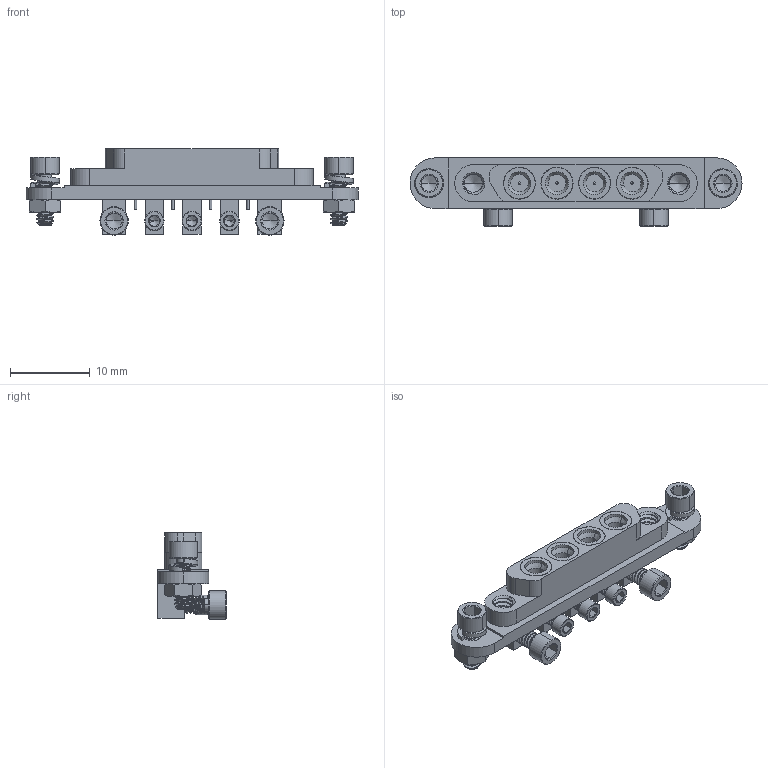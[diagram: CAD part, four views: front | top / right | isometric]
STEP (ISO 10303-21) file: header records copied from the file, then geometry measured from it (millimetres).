
FILE_DESCRIPTION (( 'STEP AP203' ), '1' );
FILE_NAME ('8869000G91P-097.STEP', '2023-11-08T18:12:51', ( '' ), ( '' ), 'SwSTEP 2.0', 'SolidWorks 2022', '' );
FILE_SCHEMA (( 'CONFIG_CONTROL_DESIGN' ));
Products named in the file (1): 8869000G91P-097
Bounding box: 41.53 x 8.53 x 10.79 mm (x, y, z)
Volume: 1233 mm3; surface area: 2304.6 mm2
Topology: 12 solids, 12 shells, 1206 faces, 3026 edges, 1924 vertices
Faces by surface type: plane 413, cylinder 335, bspline 274, cone 176, torus 8
Entity records: 63626 total; most frequent: CARTESIAN_POINT 38062, ORIENTED_EDGE 6016, DIRECTION 4172, EDGE_CURVE 3008, VERTEX_POINT 1924, AXIS2_PLACEMENT_3D 1395, VECTOR 1382, LINE 1382
